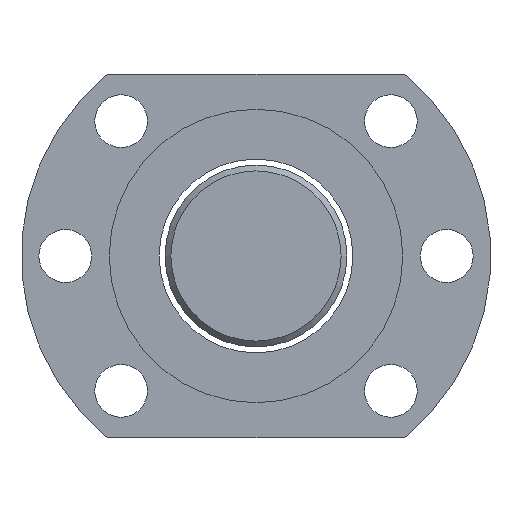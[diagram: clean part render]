
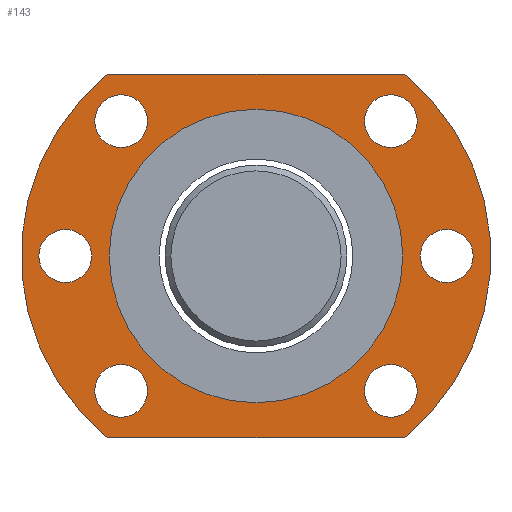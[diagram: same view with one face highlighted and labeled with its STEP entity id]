
A CAD part, left-side view. The second image highlights one B-rep face of the part: STEP entity #143.
In plain terms, the highlighted planar face has unit normal (-1, 0, 0).
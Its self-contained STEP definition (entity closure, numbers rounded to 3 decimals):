
#115=LINE('',#622,#123);
#116=LINE('',#626,#124);
#123=VECTOR('',#520,1.);
#124=VECTOR('',#523,1.);
#132=PLANE('',#452);
#143=ADVANCED_FACE('',(#189,#190,#191,#192,#193,#194,#195,#196),#132,.T.);
#189=FACE_BOUND('',#233,.T.);
#190=FACE_BOUND('',#234,.T.);
#191=FACE_BOUND('',#235,.T.);
#192=FACE_BOUND('',#236,.T.);
#193=FACE_BOUND('',#237,.T.);
#194=FACE_BOUND('',#238,.T.);
#195=FACE_BOUND('',#239,.T.);
#196=FACE_BOUND('',#240,.T.);
#233=EDGE_LOOP('',(#286));
#234=EDGE_LOOP('',(#287));
#235=EDGE_LOOP('',(#288,#289,#290,#291));
#236=EDGE_LOOP('',(#292));
#237=EDGE_LOOP('',(#293));
#238=EDGE_LOOP('',(#294));
#239=EDGE_LOOP('',(#295));
#240=EDGE_LOOP('',(#296));
#286=ORIENTED_EDGE('',*,*,#379,.T.);
#287=ORIENTED_EDGE('',*,*,#368,.F.);
#288=ORIENTED_EDGE('',*,*,#380,.T.);
#289=ORIENTED_EDGE('',*,*,#381,.T.);
#290=ORIENTED_EDGE('',*,*,#382,.T.);
#291=ORIENTED_EDGE('',*,*,#383,.T.);
#292=ORIENTED_EDGE('',*,*,#384,.F.);
#293=ORIENTED_EDGE('',*,*,#385,.F.);
#294=ORIENTED_EDGE('',*,*,#386,.F.);
#295=ORIENTED_EDGE('',*,*,#387,.T.);
#296=ORIENTED_EDGE('',*,*,#388,.T.);
#338=VERTEX_POINT('',#594);
#349=VERTEX_POINT('',#618);
#350=VERTEX_POINT('',#620);
#351=VERTEX_POINT('',#621);
#352=VERTEX_POINT('',#623);
#353=VERTEX_POINT('',#625);
#354=VERTEX_POINT('',#628);
#355=VERTEX_POINT('',#630);
#356=VERTEX_POINT('',#632);
#357=VERTEX_POINT('',#634);
#358=VERTEX_POINT('',#636);
#368=EDGE_CURVE('',#338,#338,#402,.T.);
#379=EDGE_CURVE('',#349,#349,#411,.T.);
#380=EDGE_CURVE('',#350,#351,#412,.T.);
#381=EDGE_CURVE('',#351,#352,#115,.T.);
#382=EDGE_CURVE('',#352,#353,#413,.T.);
#383=EDGE_CURVE('',#353,#350,#116,.T.);
#384=EDGE_CURVE('',#354,#354,#414,.T.);
#385=EDGE_CURVE('',#355,#355,#415,.T.);
#386=EDGE_CURVE('',#356,#356,#416,.T.);
#387=EDGE_CURVE('',#357,#357,#417,.T.);
#388=EDGE_CURVE('',#358,#358,#418,.T.);
#402=CIRCLE('',#433,25.);
#411=CIRCLE('',#444,4.5);
#412=CIRCLE('',#445,40.);
#413=CIRCLE('',#446,40.);
#414=CIRCLE('',#447,4.5);
#415=CIRCLE('',#448,4.5);
#416=CIRCLE('',#449,4.5);
#417=CIRCLE('',#450,4.5);
#418=CIRCLE('',#451,4.5);
#433=AXIS2_PLACEMENT_3D('',#593,#492,#493);
#444=AXIS2_PLACEMENT_3D('',#617,#516,#517);
#445=AXIS2_PLACEMENT_3D('',#619,#518,#519);
#446=AXIS2_PLACEMENT_3D('',#624,#521,#522);
#447=AXIS2_PLACEMENT_3D('',#627,#524,#525);
#448=AXIS2_PLACEMENT_3D('',#629,#526,#527);
#449=AXIS2_PLACEMENT_3D('',#631,#528,#529);
#450=AXIS2_PLACEMENT_3D('',#633,#530,#531);
#451=AXIS2_PLACEMENT_3D('',#635,#532,#533);
#452=AXIS2_PLACEMENT_3D('',#637,#534,#535);
#492=DIRECTION('',(-1.,0.,0.));
#493=DIRECTION('',(0.,0.,-1.));
#516=DIRECTION('',(1.,0.,0.));
#517=DIRECTION('',(0.,0.,1.));
#518=DIRECTION('',(-1.,0.,0.));
#519=DIRECTION('',(0.,0.,-1.));
#520=DIRECTION('',(0.,-1.,0.));
#521=DIRECTION('',(-1.,0.,0.));
#522=DIRECTION('',(0.,0.,-1.));
#523=DIRECTION('',(0.,1.,0.));
#524=DIRECTION('',(-1.,0.,0.));
#525=DIRECTION('',(0.,0.,1.));
#526=DIRECTION('',(-1.,0.,0.));
#527=DIRECTION('',(0.,0.,1.));
#528=DIRECTION('',(-1.,0.,0.));
#529=DIRECTION('',(0.,0.,1.));
#530=DIRECTION('',(1.,0.,0.));
#531=DIRECTION('',(0.,0.,1.));
#532=DIRECTION('',(1.,0.,0.));
#533=DIRECTION('',(0.,0.,1.));
#534=DIRECTION('',(-1.,0.,0.));
#535=DIRECTION('',(0.,0.,-1.));
#593=CARTESIAN_POINT('',(-363.878,-157.068,2.045));
#594=CARTESIAN_POINT('',(-363.878,-157.068,-22.955));
#617=CARTESIAN_POINT('',(-363.878,-189.568,2.045));
#618=CARTESIAN_POINT('',(-363.878,-189.568,6.545));
#619=CARTESIAN_POINT('',(-363.878,-157.068,2.045));
#620=CARTESIAN_POINT('',(-363.878,-131.79,33.045));
#621=CARTESIAN_POINT('',(-363.878,-131.79,-28.955));
#622=CARTESIAN_POINT('',(-363.878,-131.79,-28.955));
#623=CARTESIAN_POINT('',(-363.878,-182.347,-28.955));
#624=CARTESIAN_POINT('',(-363.878,-157.068,2.045));
#625=CARTESIAN_POINT('',(-363.878,-182.347,33.045));
#626=CARTESIAN_POINT('',(-363.878,-182.347,33.045));
#627=CARTESIAN_POINT('',(-363.878,-124.568,2.045));
#628=CARTESIAN_POINT('',(-363.878,-124.568,6.545));
#629=CARTESIAN_POINT('',(-363.878,-134.087,25.026));
#630=CARTESIAN_POINT('',(-363.878,-134.087,29.526));
#631=CARTESIAN_POINT('',(-363.878,-134.087,-20.936));
#632=CARTESIAN_POINT('',(-363.878,-134.087,-16.436));
#633=CARTESIAN_POINT('',(-363.878,-180.049,-20.936));
#634=CARTESIAN_POINT('',(-363.878,-180.049,-16.436));
#635=CARTESIAN_POINT('',(-363.878,-180.049,25.026));
#636=CARTESIAN_POINT('',(-363.878,-180.049,29.526));
#637=CARTESIAN_POINT('',(-363.878,-157.068,2.045));
